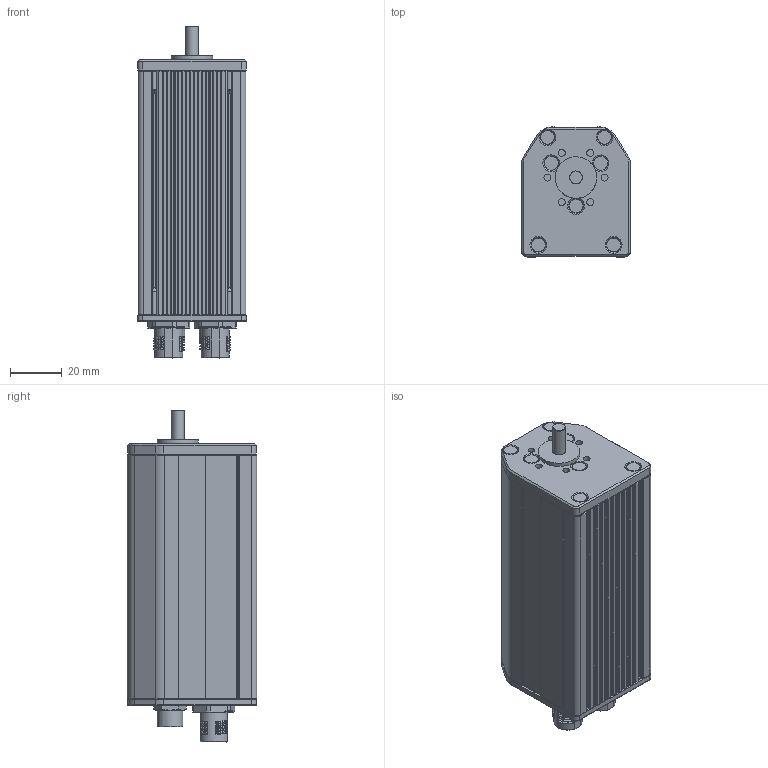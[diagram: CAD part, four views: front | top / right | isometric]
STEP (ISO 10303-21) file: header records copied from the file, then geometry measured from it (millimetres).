
FILE_DESCRIPTION(/* description */ (''),/* implementation_level */ '2;1');
FILE_NAME(/* name */ 'MCS_ET_axial_L101.stp',/* time_stamp */ '2017-04-18T08:55:25+02:00',/* author */ ('DR. FRITZ FAULHABER GmbH & Co. KG'),/* organization */ ('DR. FRITZ FAULHABER GmbH & Co. KG'),/* preprocessor_version */ 'ST-DEVELOPER v16',/* originating_system */ 'SIEMENS PLM Software NX 10.0',/* authorisation */ '');
FILE_SCHEMA (('AUTOMOTIVE_DESIGN { 1 0 10303 214 3 1 1 1 }'));
Products named in the file (1): H00001116_B
Bounding box: 42 x 50 x 128.1 mm (x, y, z)
Volume: 195438.2 mm3; surface area: 31578.1 mm2
Topology: 1 solids, 5 shells, 1393 faces, 3512 edges, 2185 vertices
Faces by surface type: plane 561, cylinder 440, bspline 178, cone 88, torus 76, sphere 32, extrusion 18
Full cylindrical faces by diameter (mm): 1.5 x5, 2.7 x6, 2.9 x2, 3.3 x2, 3.4 x2, 5 x1, 5.5 x11, 6.1 x2, 8.3 x2, 12.6 x2, 16 x1
Entity records: 56429 total; most frequent: CARTESIAN_POINT 25205, ORIENTED_EDGE 6768, DIRECTION 6017, EDGE_CURVE 3384, AXIS2_PLACEMENT_3D 2228, VERTEX_POINT 2148, VECTOR 1561, EDGE_LOOP 1544
